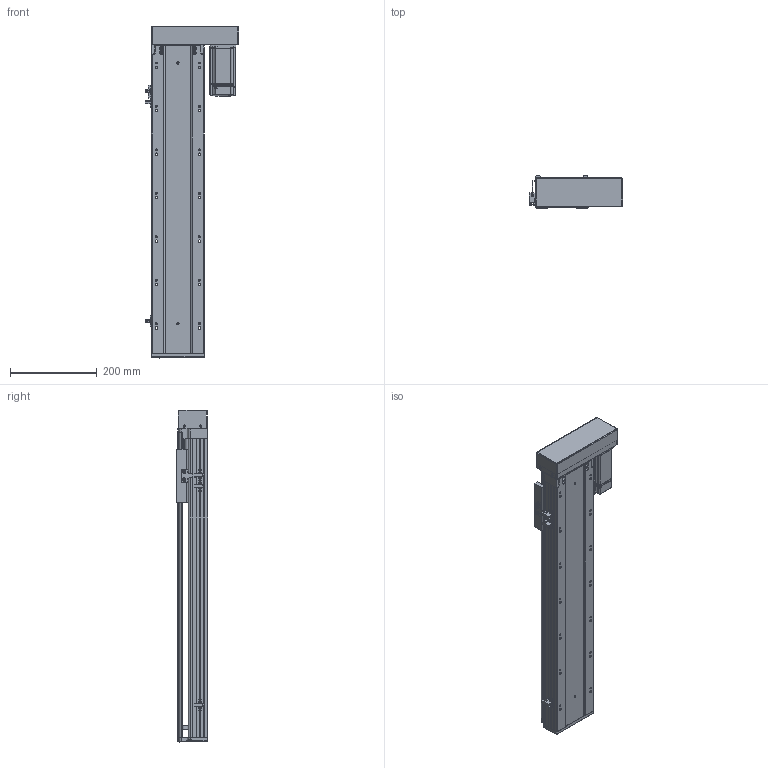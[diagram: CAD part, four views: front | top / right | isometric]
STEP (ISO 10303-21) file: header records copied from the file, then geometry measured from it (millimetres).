
FILE_DESCRIPTION (( 'STEP AP203' ), '1' );
FILE_NAME ('RY120-L2020-300-RK.SLDASM_500.step', '2021-03-12T07:14:16', ( '盈信电脑' ), ( '东莞市道滘镇水果街19号' ), 'SwSTEP 2.0', 'SolidWorks 2012', '' );
FILE_SCHEMA (( 'CONFIG_CONTROL_DESIGN' ));
Length unit declared in the file: millimetre
Products named in the file (15): RY120-400W萇儂傷-酘衵殏_450; RY120-L2020-300-RK.SLDASM_500; RY120蛌殏萇儂欶; RY120酘殏萇儂假蚾啣; RY120转拆电端丝杆支撑座(20丝杆，7002轴承); 侂狟400W侜督萇儂; 15; 覜茼ん672; 滅袉蝶18-10; 滅袉蝶18-24; RY120外置感应片(140共用）; RY120臏賑輸(20蹟譫); RY120-300-RK蛌殏倰第菁釱_500; RY120綴裔啣; RY120-300-RK蛌殏倰第奻裔啣_500
Assembly tree (17 placements, depth 4):
  RY120-L2020-300-RK.SLDASM_500
    RY120-300-RK蛌殏倰第菁釱_500
    RY120-300-RK蛌殏倰第奻裔啣_500
    RY120臏賑輸(20蹟譫)
    RY120綴裔啣
    覜茼ん672  x3
    滅袉蝶18-10
    滅袉蝶18-24  x2
    RY120外置感应片(140共用）
    RY120转拆电端丝杆支撑座(20丝杆，7002轴承)
    RY120-400W萇儂傷-酘衵殏_450
      RY120酘殏萇儂假蚾啣
      侂狟400W侜督萇儂
        15
      RY120蛌殏萇儂欶
Bounding box: 214.2 x 73 x 764 mm (x, y, z)
Volume: 2450105.1 mm3; surface area: 883394.5 mm2
Topology: 16 solids, 16 shells, 2404 faces, 6603 edges, 4232 vertices
Faces by surface type: plane 1216, cylinder 880, cone 203, bspline 105
Entity records: 79479 total; most frequent: CARTESIAN_POINT 22259, ORIENTED_EDGE 11926, DIRECTION 11011, EDGE_CURVE 5963, VERTEX_POINT 3900, LINE 3721, VECTOR 3721, AXIS2_PLACEMENT_3D 3645
